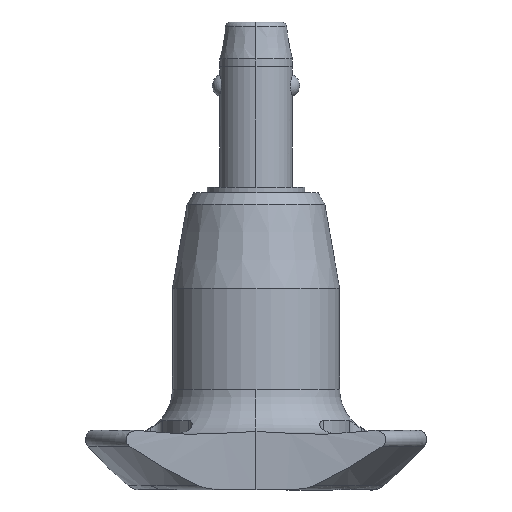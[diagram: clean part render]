
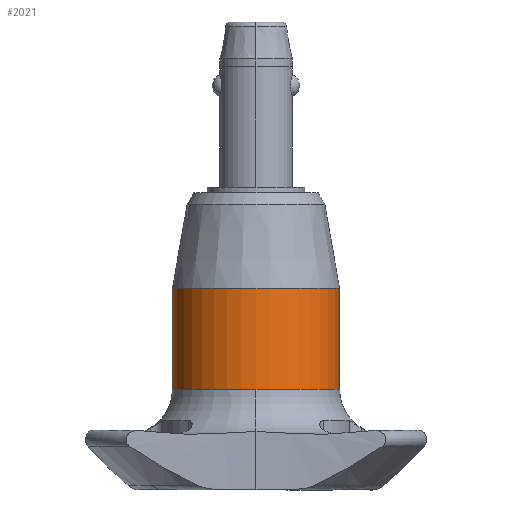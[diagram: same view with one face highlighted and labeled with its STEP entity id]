
A CAD part, left-side view. The second image highlights one B-rep face of the part: STEP entity #2021.
In plain terms, the highlighted cylindrical face has radius 9.2 mm (diameter 18.4 mm), a partial arc.
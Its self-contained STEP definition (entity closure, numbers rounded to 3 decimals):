
#58 = EDGE_CURVE ( 'NONE', #2150, #1988, #377, .T. ) ;
#193 = DIRECTION ( 'NONE',  ( 0., 1., 0. ) ) ;
#342 = CARTESIAN_POINT ( 'NONE',  ( 0., -9.2, -32.2 ) ) ;
#377 = CIRCLE ( 'NONE', #1742, 9.2 ) ;
#430 = CIRCLE ( 'NONE', #1835, 9.2 ) ;
#439 = CARTESIAN_POINT ( 'NONE',  ( 0., 0., -21.1 ) ) ;
#522 = CARTESIAN_POINT ( 'NONE',  ( 0., 0., -32.2 ) ) ;
#697 = VECTOR ( 'NONE', #1110, 1000. ) ;
#737 = CIRCLE ( 'NONE', #2160, 9.2 ) ;
#746 = EDGE_CURVE ( 'NONE', #2576, #2150, #737, .T. ) ;
#975 = LINE ( 'NONE', #342, #1062 ) ;
#991 = ORIENTED_EDGE ( 'NONE', *, *, #746, .F. ) ;
#1006 = VERTEX_POINT ( 'NONE', #2629 ) ;
#1029 = ORIENTED_EDGE ( 'NONE', *, *, #2664, .T. ) ;
#1051 = DIRECTION ( 'NONE',  ( 0., 1., 0. ) ) ;
#1062 = VECTOR ( 'NONE', #1618, 1000. ) ;
#1076 = ORIENTED_EDGE ( 'NONE', *, *, #58, .F. ) ;
#1106 = CARTESIAN_POINT ( 'NONE',  ( -9.2, 0., -32.2 ) ) ;
#1110 = DIRECTION ( 'NONE',  ( 0., 0., -1. ) ) ;
#1309 = DIRECTION ( 'NONE',  ( 0., 0., -1. ) ) ;
#1465 = DIRECTION ( 'NONE',  ( 0., 1., 0. ) ) ;
#1487 = VERTEX_POINT ( 'NONE', #1592 ) ;
#1515 = EDGE_CURVE ( 'NONE', #1487, #1988, #2467, .T. ) ;
#1592 = CARTESIAN_POINT ( 'NONE',  ( 0., 9.2, -21.1 ) ) ;
#1618 = DIRECTION ( 'NONE',  ( 0., 0., -1. ) ) ;
#1740 = CYLINDRICAL_SURFACE ( 'NONE', #2057, 9.2 ) ;
#1742 = AXIS2_PLACEMENT_3D ( 'NONE', #2602, #2381, #1051 ) ;
#1835 = AXIS2_PLACEMENT_3D ( 'NONE', #439, #1309, #1465 ) ;
#1836 = DIRECTION ( 'NONE',  ( 0., 1., 0. ) ) ;
#1880 = CARTESIAN_POINT ( 'NONE',  ( 0., -9.2, -32.2 ) ) ;
#1914 = DIRECTION ( 'NONE',  ( 0., 0., -1. ) ) ;
#1946 = CARTESIAN_POINT ( 'NONE',  ( 0., 9.2, -32.2 ) ) ;
#1988 = VERTEX_POINT ( 'NONE', #1946 ) ;
#2021 = ADVANCED_FACE ( 'NONE', ( #2604 ), #1740, .T. ) ;
#2057 = AXIS2_PLACEMENT_3D ( 'NONE', #2384, #1914, #193 ) ;
#2150 = VERTEX_POINT ( 'NONE', #1106 ) ;
#2160 = AXIS2_PLACEMENT_3D ( 'NONE', #522, #2729, #1836 ) ;
#2200 = CARTESIAN_POINT ( 'NONE',  ( 0., 9.2, -32.2 ) ) ;
#2277 = ORIENTED_EDGE ( 'NONE', *, *, #1515, .T. ) ;
#2381 = DIRECTION ( 'NONE',  ( 0., 0., -1. ) ) ;
#2384 = CARTESIAN_POINT ( 'NONE',  ( 0., 0., -32.2 ) ) ;
#2467 = LINE ( 'NONE', #2200, #697 ) ;
#2508 = EDGE_CURVE ( 'NONE', #1006, #2576, #975, .T. ) ;
#2576 = VERTEX_POINT ( 'NONE', #1880 ) ;
#2579 = ORIENTED_EDGE ( 'NONE', *, *, #2508, .F. ) ;
#2602 = CARTESIAN_POINT ( 'NONE',  ( 0., 0., -32.2 ) ) ;
#2604 = FACE_OUTER_BOUND ( 'NONE', #2745, .T. ) ;
#2629 = CARTESIAN_POINT ( 'NONE',  ( 0., -9.2, -21.1 ) ) ;
#2664 = EDGE_CURVE ( 'NONE', #1006, #1487, #430, .T. ) ;
#2729 = DIRECTION ( 'NONE',  ( 0., 0., -1. ) ) ;
#2745 = EDGE_LOOP ( 'NONE', ( #2579, #1029, #2277, #1076, #991 ) ) ;
